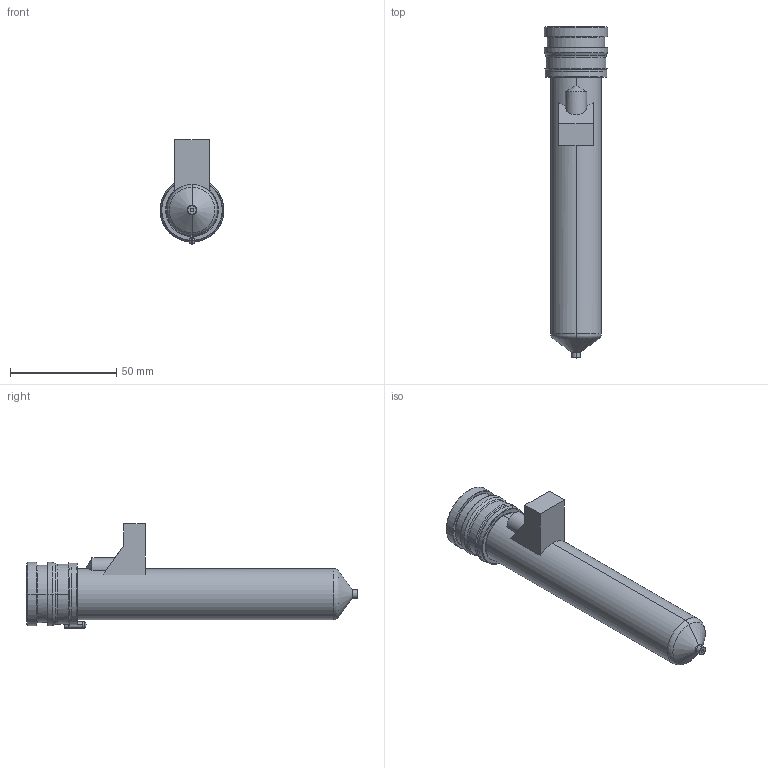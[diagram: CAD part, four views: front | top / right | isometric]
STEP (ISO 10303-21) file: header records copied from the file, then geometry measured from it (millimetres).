
FILE_DESCRIPTION((''),'2;1');
FILE_NAME('MPN-10-29-VP4-136-M','2026-02-05T12:59:10',('UPTIO'),('Thermoplay S.p.A.'),'CREO PARAMETRIC BY PTC INC, 2023494','CREO PARAMETRIC BY PTC INC, 2023494','');
FILE_SCHEMA(('CONFIG_CONTROL_DESIGN','SHAPE_APPEARANCE_LAYERS_GROUPS'));
Length unit declared in the file: millimetre
Products named in the file (1): MPN-10-29-VP4-136-M
Bounding box: 30 x 156.1 x 49 mm (x, y, z)
Volume: 49072.2 mm3; surface area: 50612 mm2
Topology: 3 solids, 5 shells, 570 faces, 1471 edges, 906 vertices
Faces by surface type: cylinder 177, plane 156, bspline 92, torus 69, cone 66, sphere 6, extrusion 4
Entity records: 30855 total; most frequent: CARTESIAN_POINT 14512, ORIENTED_EDGE 2928, DIRECTION 2618, EDGE_CURVE 1464, AXIS2_PLACEMENT_3D 1035, VERTEX_POINT 906, EDGE_LOOP 598, FACE_OUTER_BOUND 570
